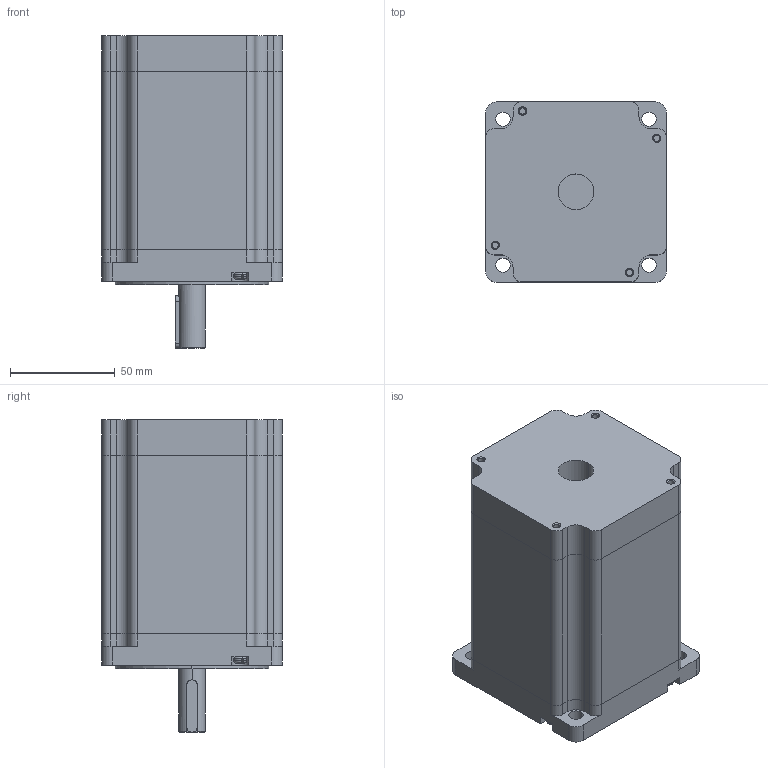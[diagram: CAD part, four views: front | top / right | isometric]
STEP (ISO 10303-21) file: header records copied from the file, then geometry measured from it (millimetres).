
FILE_DESCRIPTION (( 'STEP AP214' ), '1' );
FILE_NAME ('86J18118-842(Z).STEP', '2016-05-14T07:39:05', ( 'User' ), ( 'china' ), 'SwSTEP 2.0', 'SolidWorks 2010', '' );
FILE_SCHEMA (( 'AUTOMOTIVE_DESIGN' ));
Length unit declared in the file: millimetre
Products named in the file (6): 儂旯; 86奻裔 湍瑩羞; 綴裔; 蹟佪芛; 25MM瑩; 86J18118-842(Z)
Assembly tree (8 placements, depth 2):
  86J18118-842(Z)
    蹟佪芛  x4
    儂旯
    86奻裔 湍瑩羞
    綴裔
    25MM瑩
Bounding box: 86 x 86 x 149 mm (x, y, z)
Volume: 792606.2 mm3; surface area: 87248.8 mm2
Topology: 8 solids, 8 shells, 281 faces, 742 edges, 486 vertices
Faces by surface type: plane 130, cylinder 123, torus 16, cone 12
Entity records: 6508 total; most frequent: CARTESIAN_POINT 1142, DIRECTION 1136, ORIENTED_EDGE 1040, EDGE_CURVE 520, AXIS2_PLACEMENT_3D 416, VERTEX_POINT 342, LINE 304, VECTOR 304
